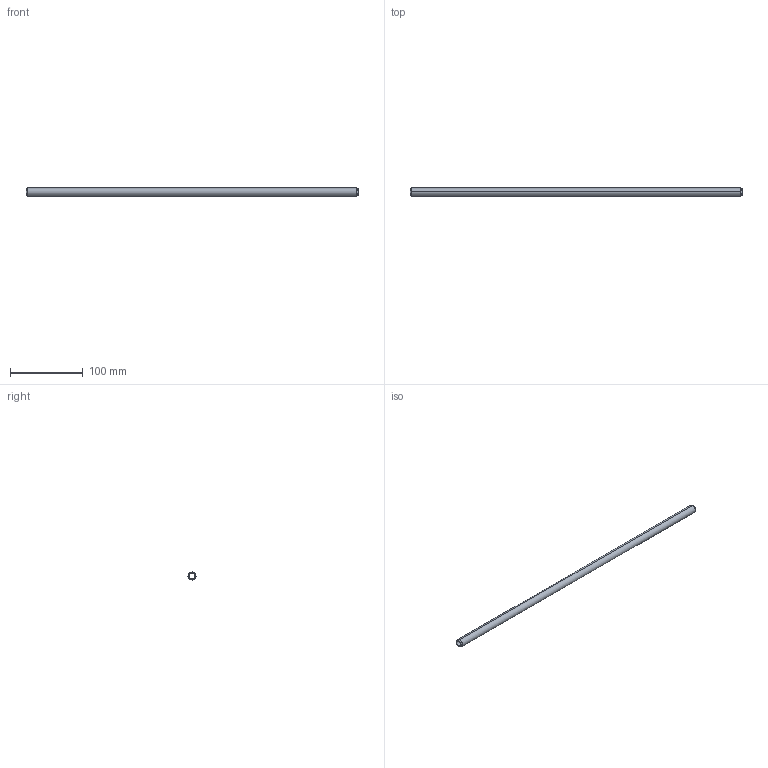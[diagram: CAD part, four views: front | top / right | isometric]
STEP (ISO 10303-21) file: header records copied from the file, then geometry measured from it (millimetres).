
FILE_DESCRIPTION (( 'STEP AP203' ), '1' );
FILE_NAME ('JBT0570.STEP', '2016-09-01T21:31:41', ( '' ), ( '' ), 'SwSTEP 2.0', 'SolidWorks 2014', '' );
FILE_SCHEMA (( 'CONFIG_CONTROL_DESIGN' ));
Length unit declared in the file: millimetre
Products named in the file (1): JBT0570
Bounding box: 457.2 x 11.1 x 11.1 mm (x, y, z)
Volume: 22358 mm3; surface area: 27190.9 mm2
Topology: 1 solids, 1 shells, 18 faces, 36 edges, 20 vertices
Faces by surface type: torus 8, cone 4, cylinder 4, plane 2
Entity records: 553 total; most frequent: DIRECTION 102, CARTESIAN_POINT 75, ORIENTED_EDGE 72, AXIS2_PLACEMENT_3D 47, EDGE_CURVE 36, CIRCLE 28, VERTEX_POINT 20, EDGE_LOOP 20
